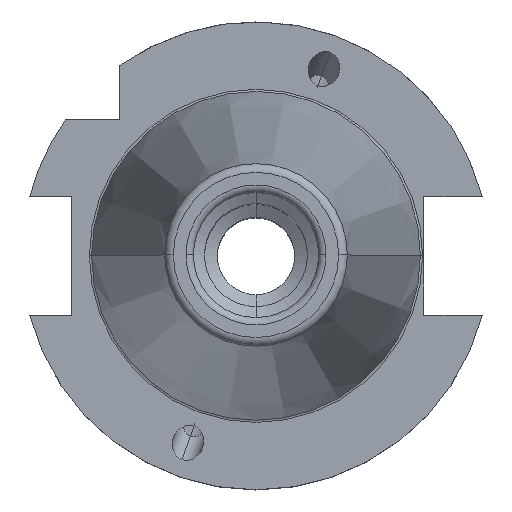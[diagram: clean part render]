
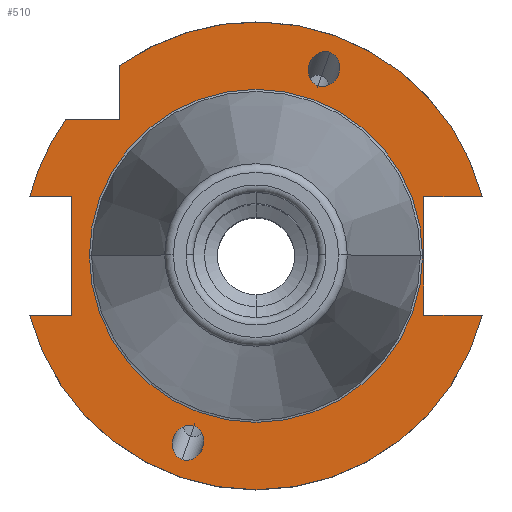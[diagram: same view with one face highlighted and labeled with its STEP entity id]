
A CAD part, top view. The second image highlights one B-rep face of the part: STEP entity #510.
In plain terms, the highlighted planar face has unit normal (0, 0, 1).
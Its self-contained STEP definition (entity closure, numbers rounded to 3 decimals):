
#510=ADVANCED_FACE('',(#1014,#1015,#1016,#1017),#1018,.T.);
#1014=FACE_OUTER_BOUND('',#1545,.T.);
#1015=FACE_BOUND('',#1546,.T.);
#1016=FACE_BOUND('',#1547,.T.);
#1017=FACE_BOUND('',#1548,.T.);
#1018=PLANE('',#1549);
#1545=EDGE_LOOP('',(#2930,#2931,#2932,#2933,#2934,#2935,#2936,#2937,#2938,#2939,#2940));
#1546=EDGE_LOOP('',(#2941,#2942));
#1547=EDGE_LOOP('',(#2943,#2944));
#1548=EDGE_LOOP('',(#2945,#2946,#2947));
#1549=AXIS2_PLACEMENT_3D('',#2948,#2949,#2950);
#2930=ORIENTED_EDGE('',*,*,#3635,.T.);
#2931=ORIENTED_EDGE('',*,*,#3716,.T.);
#2932=ORIENTED_EDGE('',*,*,#3698,.T.);
#2933=ORIENTED_EDGE('',*,*,#3706,.T.);
#2934=ORIENTED_EDGE('',*,*,#3703,.T.);
#2935=ORIENTED_EDGE('',*,*,#3717,.T.);
#2936=ORIENTED_EDGE('',*,*,#3718,.T.);
#2937=ORIENTED_EDGE('',*,*,#3719,.T.);
#2938=ORIENTED_EDGE('',*,*,#3720,.T.);
#2939=ORIENTED_EDGE('',*,*,#3655,.T.);
#2940=ORIENTED_EDGE('',*,*,#3647,.T.);
#2941=ORIENTED_EDGE('',*,*,#3566,.T.);
#2942=ORIENTED_EDGE('',*,*,#3474,.T.);
#2943=ORIENTED_EDGE('',*,*,#3469,.T.);
#2944=ORIENTED_EDGE('',*,*,#3572,.T.);
#2945=ORIENTED_EDGE('',*,*,#3348,.F.);
#2946=ORIENTED_EDGE('',*,*,#3347,.F.);
#2947=ORIENTED_EDGE('',*,*,#3721,.F.);
#2948=CARTESIAN_POINT('',(27.233,0.0,-3.2));
#2949=DIRECTION('',(0.0,0.0,1.0));
#2950=DIRECTION('',(1.0,0.0,0.0));
#3347=EDGE_CURVE('',#4051,#4054,#4055,.T.);
#3348=EDGE_CURVE('',#4054,#4056,#4057,.T.);
#3469=EDGE_CURVE('',#4265,#4263,#4266,.T.);
#3474=EDGE_CURVE('',#4269,#4271,#4273,.T.);
#3566=EDGE_CURVE('',#4271,#4269,#4412,.T.);
#3572=EDGE_CURVE('',#4263,#4265,#4420,.T.);
#3635=EDGE_CURVE('',#4507,#4508,#4509,.T.);
#3647=EDGE_CURVE('',#4529,#4507,#4530,.T.);
#3655=EDGE_CURVE('',#4540,#4529,#4541,.T.);
#3698=EDGE_CURVE('',#4594,#4592,#4595,.T.);
#3703=EDGE_CURVE('',#4601,#4599,#4602,.T.);
#3706=EDGE_CURVE('',#4592,#4601,#4605,.T.);
#3716=EDGE_CURVE('',#4508,#4594,#4617,.T.);
#3717=EDGE_CURVE('',#4599,#4618,#4619,.T.);
#3718=EDGE_CURVE('',#4618,#4620,#4621,.T.);
#3719=EDGE_CURVE('',#4620,#4622,#4623,.T.);
#3720=EDGE_CURVE('',#4622,#4540,#4624,.T.);
#3721=EDGE_CURVE('',#4056,#4051,#4625,.T.);
#4051=VERTEX_POINT('',#5174);
#4054=VERTEX_POINT('',#5177);
#4055=CIRCLE('',#5178,22.625);
#4056=VERTEX_POINT('',#5179);
#4057=CIRCLE('',#5180,22.625);
#4263=VERTEX_POINT('',#5661);
#4265=VERTEX_POINT('',#5664);
#4266=ELLIPSE('',#5665,2.425,2.1);
#4269=VERTEX_POINT('',#5669);
#4271=VERTEX_POINT('',#5672);
#4273=ELLIPSE('',#5675,2.425,2.1);
#4412=ELLIPSE('',#5834,2.425,2.1);
#4420=ELLIPSE('',#5842,2.425,2.1);
#4507=VERTEX_POINT('',#6095);
#4508=VERTEX_POINT('',#6096);
#4509=LINE('',#6097,#6098);
#4529=VERTEX_POINT('',#6160);
#4530=LINE('',#6161,#6162);
#4540=VERTEX_POINT('',#6194);
#4541=CIRCLE('',#6195,31.775);
#4592=VERTEX_POINT('',#6297);
#4594=VERTEX_POINT('',#6300);
#4595=LINE('',#6301,#6302);
#4599=VERTEX_POINT('',#6308);
#4601=VERTEX_POINT('',#6311);
#4602=LINE('',#6312,#6313);
#4605=LINE('',#6317,#6318);
#4617=CIRCLE('',#6341,31.775);
#4618=VERTEX_POINT('',#6342);
#4619=CIRCLE('',#6343,31.775);
#4620=VERTEX_POINT('',#6344);
#4621=LINE('',#6345,#6346);
#4622=VERTEX_POINT('',#6347);
#4623=LINE('',#6348,#6349);
#4624=LINE('',#6350,#6351);
#4625=CIRCLE('',#6352,22.625);
#5174=CARTESIAN_POINT('',(22.625,0.,-3.2));
#5177=CARTESIAN_POINT('',(0.0,22.625,-3.2));
#5178=AXIS2_PLACEMENT_3D('',#6645,#6646,#6647);
#5179=CARTESIAN_POINT('',(-22.625,0.,-3.2));
#5180=AXIS2_PLACEMENT_3D('',#6648,#6649,#6650);
#5661=CARTESIAN_POINT('',(10.064,27.65,-3.2));
#5664=CARTESIAN_POINT('',(8.405,23.093,-3.2));
#5665=AXIS2_PLACEMENT_3D('',#6823,#6824,#6825);
#5669=CARTESIAN_POINT('',(-10.064,-27.65,-3.2));
#5672=CARTESIAN_POINT('',(-8.405,-23.093,-3.2));
#5675=AXIS2_PLACEMENT_3D('',#6829,#6830,#6831);
#5834=AXIS2_PLACEMENT_3D('',#6996,#6997,#6998);
#5842=AXIS2_PLACEMENT_3D('',#7011,#7012,#7013);
#6095=CARTESIAN_POINT('',(-18.5,18.5,-3.2));
#6096=CARTESIAN_POINT('',(-25.834,18.5,-3.2));
#6097=CARTESIAN_POINT('',(-18.5,18.5,-3.2));
#6098=VECTOR('',#7078,7.334);
#6160=CARTESIAN_POINT('',(-18.5,25.834,-3.2));
#6161=CARTESIAN_POINT('',(-18.5,25.834,-3.2));
#6162=VECTOR('',#7085,7.334);
#6194=CARTESIAN_POINT('',(30.738,8.05,-3.2));
#6195=AXIS2_PLACEMENT_3D('',#7090,#7091,#7092);
#6297=CARTESIAN_POINT('',(-25.0,8.05,-3.2));
#6300=CARTESIAN_POINT('',(-30.738,8.05,-3.2));
#6301=CARTESIAN_POINT('',(-30.738,8.05,-3.2));
#6302=VECTOR('',#7142,5.738);
#6308=CARTESIAN_POINT('',(-30.738,-8.05,-3.2));
#6311=CARTESIAN_POINT('',(-25.0,-8.05,-3.2));
#6312=CARTESIAN_POINT('',(-25.0,-8.05,-3.2));
#6313=VECTOR('',#7146,5.738);
#6317=CARTESIAN_POINT('',(-25.0,8.05,-3.2));
#6318=VECTOR('',#7148,16.1);
#6341=AXIS2_PLACEMENT_3D('',#7157,#7158,#7159);
#6342=CARTESIAN_POINT('',(30.738,-8.05,-3.2));
#6343=AXIS2_PLACEMENT_3D('',#7160,#7161,#7162);
#6344=CARTESIAN_POINT('',(22.8,-8.05,-3.2));
#6345=CARTESIAN_POINT('',(30.738,-8.05,-3.2));
#6346=VECTOR('',#7163,7.938);
#6347=CARTESIAN_POINT('',(22.8,8.05,-3.2));
#6348=CARTESIAN_POINT('',(22.8,-8.05,-3.2));
#6349=VECTOR('',#7164,16.1);
#6350=CARTESIAN_POINT('',(22.8,8.05,-3.2));
#6351=VECTOR('',#7165,7.938);
#6352=AXIS2_PLACEMENT_3D('',#7166,#7167,#7168);
#6645=CARTESIAN_POINT('',(0.0,0.0,-3.2));
#6646=DIRECTION('',(0.0,-0.0,1.0));
#6647=DIRECTION('',(0.0,1.0,0.0));
#6648=CARTESIAN_POINT('',(0.0,0.0,-3.2));
#6649=DIRECTION('',(0.0,-0.0,1.0));
#6650=DIRECTION('',(0.0,1.0,0.0));
#6823=CARTESIAN_POINT('',(9.235,25.372,-3.2));
#6824=DIRECTION('',(0.0,0.0,-1.0));
#6825=DIRECTION('',(0.342,0.94,0.0));
#6829=CARTESIAN_POINT('',(-9.235,-25.372,-3.2));
#6830=DIRECTION('',(-0.0,0.0,-1.0));
#6831=DIRECTION('',(-0.342,-0.94,0.0));
#6996=CARTESIAN_POINT('',(-9.235,-25.372,-3.2));
#6997=DIRECTION('',(-0.0,0.0,-1.0));
#6998=DIRECTION('',(-0.342,-0.94,0.0));
#7011=CARTESIAN_POINT('',(9.235,25.372,-3.2));
#7012=DIRECTION('',(0.0,0.0,-1.0));
#7013=DIRECTION('',(0.342,0.94,0.0));
#7078=DIRECTION('',(-1.0,0.0,0.0));
#7085=DIRECTION('',(0.0,-1.0,0.0));
#7090=CARTESIAN_POINT('',(0.,0.0,-3.2));
#7091=DIRECTION('',(0.,0.0,1.0));
#7092=DIRECTION('',(1.0,0.0,0.));
#7142=DIRECTION('',(1.0,0.0,0.0));
#7146=DIRECTION('',(-1.0,0.0,0.0));
#7148=DIRECTION('',(0.0,-1.0,0.0));
#7157=CARTESIAN_POINT('',(0.,0.0,-3.2));
#7158=DIRECTION('',(0.,0.0,1.0));
#7159=DIRECTION('',(1.0,0.0,0.));
#7160=CARTESIAN_POINT('',(0.,0.0,-3.2));
#7161=DIRECTION('',(0.,0.0,1.0));
#7162=DIRECTION('',(1.0,0.0,0.));
#7163=DIRECTION('',(-1.0,0.0,0.0));
#7164=DIRECTION('',(0.0,1.0,0.0));
#7165=DIRECTION('',(1.0,0.0,0.0));
#7166=CARTESIAN_POINT('',(0.0,0.0,-3.2));
#7167=DIRECTION('',(0.0,-0.0,1.0));
#7168=DIRECTION('',(0.0,1.0,0.0));
